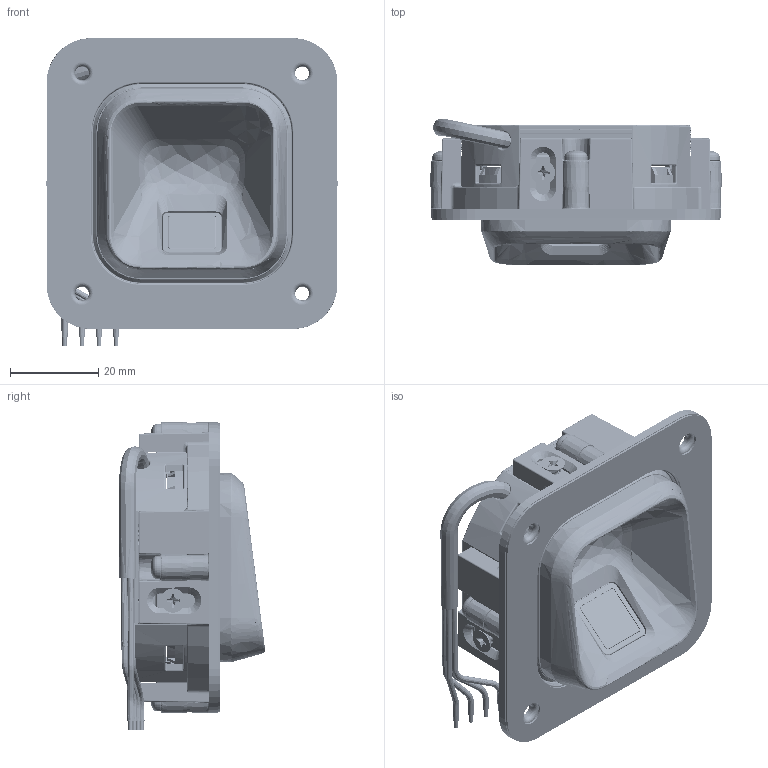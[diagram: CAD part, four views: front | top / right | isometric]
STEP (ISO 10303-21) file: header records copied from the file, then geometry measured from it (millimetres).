
FILE_DESCRIPTION(/* description */ ('Unknown'),/* implementation_level */ '2;1');
FILE_NAME(/* name */ '_0044_01_ekey sLine fingerprint',/* time_stamp */ '2022-05-25T15:40:47+02:00',/* author */ ('Unknown'),/* organization */ ('Unknown'),/* preprocessor_version */ 'ST-DEVELOPER v18.102',/* originating_system */ 'Solid Edge',/* authorisation */ 'Unknown');
FILE_SCHEMA (('AUTOMOTIVE_DESIGN {1 0 10303 214 3 1 1}'));
Products named in the file (15): ekey sLine fingerprint ; 0042_XXX_Sensor_FPC_mit_Klebefolie; 0042_XXX_Sensor FPC Klebefolie(Standard); 0042_XXX_Sensor_FPC1020AM-0B-CM04-D_20190215; 0042_006_Sensor X Fingermulde(Standard); 0042_004_Sensor RFID X Gehaeuse(Standard); 0044_001_ekey sLine housing; 0044_0031_ekey sLine adhesive film; 0044_004_ekey sLine distance ring; Screw_DIN_EN_ISO_7046_2_M3x6_H1_v16.00; Kunststoffschraube 3x11_Kreuz; 0044_003_ekey sLine mounting flange; 0044_002_ekey sLine fixing ring; Nut_DIN_562_2012_M3_v16.00; Kabel_neu
Assembly tree (23 placements, depth 3):
  ekey sLine fingerprint 
    0042_XXX_Sensor_FPC_mit_Klebefolie
      0042_XXX_Sensor FPC Klebefolie(Standard)
      0042_XXX_Sensor_FPC1020AM-0B-CM04-D_20190215
    0042_006_Sensor X Fingermulde(Standard)
    0042_004_Sensor RFID X Gehaeuse(Standard)
    0044_001_ekey sLine housing
    0044_0031_ekey sLine adhesive film
    0044_004_ekey sLine distance ring
    Screw_DIN_EN_ISO_7046_2_M3x6_H1_v16.00  x4
    Kunststoffschraube 3x11_Kreuz  x4
    0044_003_ekey sLine mounting flange
    0044_002_ekey sLine fixing ring
    Nut_DIN_562_2012_M3_v16.00  x4
    Kabel_neu
Bounding box: 66.21 x 33.26 x 70.06 mm (x, y, z)
Volume: 30094.7 mm3; surface area: 48639.6 mm2
Topology: 24 solids, 24 shells, 5773 faces, 14539 edges, 8520 vertices
Faces by surface type: plane 1971, cylinder 1581, bspline 1308, sphere 432, torus 280, cone 201
Full cylindrical faces by diameter (mm): 0.5 x1, 1 x4, 2.341 x4, 2.459 x4, 3 x4, 4 x1, 5 x4, 5.3 x4, 5.4 x4, 5.5 x4
Entity records: 241081 total; most frequent: CARTESIAN_POINT 122718, ORIENTED_EDGE 25126, DIRECTION 20884, EDGE_CURVE 12563, VERTEX_POINT 7583, AXIS2_PLACEMENT_3D 7516, LINE 5852, VECTOR 5852
